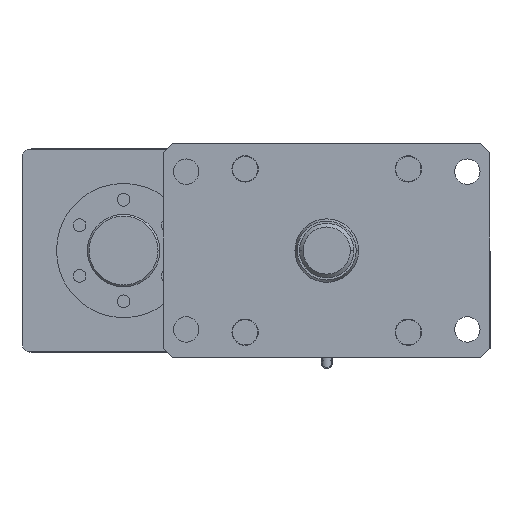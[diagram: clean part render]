
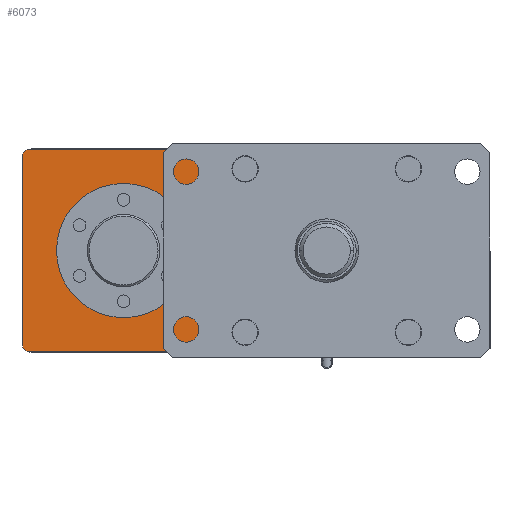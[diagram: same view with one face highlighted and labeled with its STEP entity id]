
A CAD part, front view. The second image highlights one B-rep face of the part: STEP entity #6073.
In plain terms, the highlighted planar face has unit normal (0, -1, 0).
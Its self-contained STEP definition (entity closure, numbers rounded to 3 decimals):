
#183 = CARTESIAN_POINT ( 'NONE',  ( -112., 0., 37. ) ) ;
#320 = VECTOR ( 'NONE', #9874, 1000. ) ;
#412 = DIRECTION ( 'NONE',  ( 0., -1., 0. ) ) ;
#692 = CARTESIAN_POINT ( 'NONE',  ( -167.8, 0., 52.4 ) ) ;
#714 = LINE ( 'NONE', #13393, #7008 ) ;
#907 = EDGE_CURVE ( 'NONE', #10940, #13158, #9341, .T. ) ;
#919 = VECTOR ( 'NONE', #14113, 1000. ) ;
#1114 = LINE ( 'NONE', #7623, #14024 ) ;
#1208 = CARTESIAN_POINT ( 'NONE',  ( -56.2, 0., -55.8 ) ) ;
#1225 = CARTESIAN_POINT ( 'NONE',  ( -164.4, 0., -55.8 ) ) ;
#1287 = ORIENTED_EDGE ( 'NONE', *, *, #14516, .T. ) ;
#1426 = VERTEX_POINT ( 'NONE', #1225 ) ;
#1561 = CARTESIAN_POINT ( 'NONE',  ( -167.8, 0., -52.4 ) ) ;
#1613 = ORIENTED_EDGE ( 'NONE', *, *, #16223, .T. ) ;
#1812 = VERTEX_POINT ( 'NONE', #1561 ) ;
#1905 = CIRCLE ( 'NONE', #14795, 5. ) ;
#1961 = ORIENTED_EDGE ( 'NONE', *, *, #6413, .T. ) ;
#2681 = DIRECTION ( 'NONE',  ( 0., -1., 0. ) ) ;
#2696 = DIRECTION ( 'NONE',  ( -1., 0., 0. ) ) ;
#2767 = ORIENTED_EDGE ( 'NONE', *, *, #4963, .F. ) ;
#2865 = AXIS2_PLACEMENT_3D ( 'NONE', #3982, #12697, #5241 ) ;
#3229 = AXIS2_PLACEMENT_3D ( 'NONE', #7956, #412, #9198 ) ;
#3714 = LINE ( 'NONE', #14827, #320 ) ;
#3935 = PLANE ( 'NONE',  #9284 ) ;
#3982 = CARTESIAN_POINT ( 'NONE',  ( -61., 0., 51. ) ) ;
#4157 = EDGE_LOOP ( 'NONE', ( #2767, #6096 ) ) ;
#4274 = EDGE_CURVE ( 'NONE', #10436, #10492, #7643, .T. ) ;
#4558 = DIRECTION ( 'NONE',  ( 0., -1., 0. ) ) ;
#4665 = CARTESIAN_POINT ( 'NONE',  ( -163., 0., -51. ) ) ;
#4844 = EDGE_CURVE ( 'NONE', #1812, #1426, #1905, .T. ) ;
#4949 = EDGE_CURVE ( 'NONE', #10492, #13143, #3714, .T. ) ;
#4963 = EDGE_CURVE ( 'NONE', #13158, #10940, #9940, .T. ) ;
#5241 = DIRECTION ( 'NONE',  ( -1., 0., 0. ) ) ;
#5849 = FACE_BOUND ( 'NONE', #4157, .T. ) ;
#5920 = DIRECTION ( 'NONE',  ( -1., 0., 0. ) ) ;
#6073 = ADVANCED_FACE ( 'NONE', ( #9523, #5849 ), #3935, .F. ) ;
#6096 = ORIENTED_EDGE ( 'NONE', *, *, #907, .F. ) ;
#6153 = CARTESIAN_POINT ( 'NONE',  ( -59.6, 0., 55.8 ) ) ;
#6157 = EDGE_CURVE ( 'NONE', #14488, #1812, #13824, .T. ) ;
#6397 = ORIENTED_EDGE ( 'NONE', *, *, #4274, .T. ) ;
#6413 = EDGE_CURVE ( 'NONE', #1426, #13006, #714, .T. ) ;
#6677 = CARTESIAN_POINT ( 'NONE',  ( -167.8, 0., 56. ) ) ;
#7008 = VECTOR ( 'NONE', #14629, 1000. ) ;
#7623 = CARTESIAN_POINT ( 'NONE',  ( -56.2, 0., 56. ) ) ;
#7643 = CIRCLE ( 'NONE', #2865, 5. ) ;
#7740 = CARTESIAN_POINT ( 'NONE',  ( -164.4, 0., 55.8 ) ) ;
#7906 = EDGE_LOOP ( 'NONE', ( #1613, #6397, #9818, #1287, #8170, #14698, #1961 ) ) ;
#7956 = CARTESIAN_POINT ( 'NONE',  ( -112., 0., 0. ) ) ;
#8170 = ORIENTED_EDGE ( 'NONE', *, *, #6157, .T. ) ;
#9164 = CIRCLE ( 'NONE', #15137, 5. ) ;
#9198 = DIRECTION ( 'NONE',  ( -1., 0., 0. ) ) ;
#9284 = AXIS2_PLACEMENT_3D ( 'NONE', #15083, #10176, #2696 ) ;
#9341 = CIRCLE ( 'NONE', #3229, 37. ) ;
#9523 = FACE_OUTER_BOUND ( 'NONE', #7906, .T. ) ;
#9818 = ORIENTED_EDGE ( 'NONE', *, *, #4949, .T. ) ;
#9874 = DIRECTION ( 'NONE',  ( -1., 0., 0. ) ) ;
#9940 = CIRCLE ( 'NONE', #12815, 37. ) ;
#10101 = DIRECTION ( 'NONE',  ( 0., 0., 1. ) ) ;
#10165 = CARTESIAN_POINT ( 'NONE',  ( -112., 0., 0. ) ) ;
#10176 = DIRECTION ( 'NONE',  ( 0., 1., 0. ) ) ;
#10436 = VERTEX_POINT ( 'NONE', #14684 ) ;
#10492 = VERTEX_POINT ( 'NONE', #6153 ) ;
#10940 = VERTEX_POINT ( 'NONE', #15019 ) ;
#11396 = DIRECTION ( 'NONE',  ( -1., 0., 0. ) ) ;
#12003 = CARTESIAN_POINT ( 'NONE',  ( -163., 0., 51. ) ) ;
#12697 = DIRECTION ( 'NONE',  ( 0., -1., 0. ) ) ;
#12815 = AXIS2_PLACEMENT_3D ( 'NONE', #10165, #2681, #11396 ) ;
#13006 = VERTEX_POINT ( 'NONE', #1208 ) ;
#13143 = VERTEX_POINT ( 'NONE', #7740 ) ;
#13158 = VERTEX_POINT ( 'NONE', #183 ) ;
#13270 = DIRECTION ( 'NONE',  ( -1., 0., 0. ) ) ;
#13368 = DIRECTION ( 'NONE',  ( 0., -1., 0. ) ) ;
#13393 = CARTESIAN_POINT ( 'NONE',  ( -168., 0., -55.8 ) ) ;
#13824 = LINE ( 'NONE', #6677, #919 ) ;
#14024 = VECTOR ( 'NONE', #10101, 1000. ) ;
#14113 = DIRECTION ( 'NONE',  ( 0., 0., -1. ) ) ;
#14488 = VERTEX_POINT ( 'NONE', #692 ) ;
#14516 = EDGE_CURVE ( 'NONE', #13143, #14488, #9164, .T. ) ;
#14629 = DIRECTION ( 'NONE',  ( 1., 0., 0. ) ) ;
#14684 = CARTESIAN_POINT ( 'NONE',  ( -56.2, 0., 52.4 ) ) ;
#14698 = ORIENTED_EDGE ( 'NONE', *, *, #4844, .T. ) ;
#14795 = AXIS2_PLACEMENT_3D ( 'NONE', #4665, #13368, #5920 ) ;
#14827 = CARTESIAN_POINT ( 'NONE',  ( -168., 0., 55.8 ) ) ;
#15019 = CARTESIAN_POINT ( 'NONE',  ( -112., 0., -37. ) ) ;
#15083 = CARTESIAN_POINT ( 'NONE',  ( -168., 0., 56. ) ) ;
#15137 = AXIS2_PLACEMENT_3D ( 'NONE', #12003, #4558, #13270 ) ;
#16223 = EDGE_CURVE ( 'NONE', #13006, #10436, #1114, .T. ) ;
